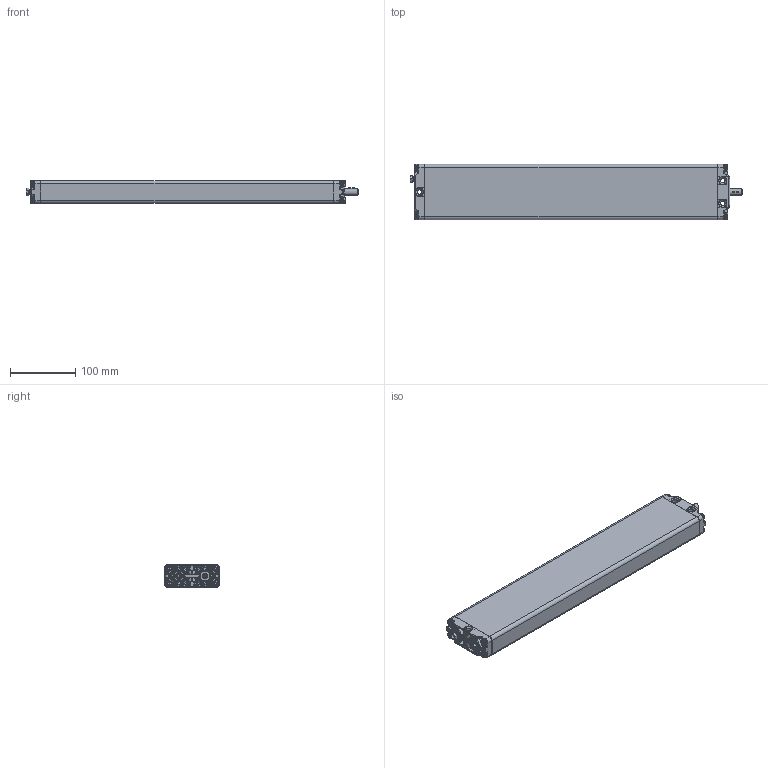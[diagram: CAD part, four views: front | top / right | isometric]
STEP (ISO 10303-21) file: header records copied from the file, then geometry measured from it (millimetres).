
FILE_DESCRIPTION(/* description */ ('Unknown'),/* implementation_level */ '2;1');
FILE_NAME(/* name */ '100.20023 Pumpe PA 1830 W',/* time_stamp */ '2016-08-09T15:47:59+02:00',/* author */ ('Unknown'),/* organization */ ('Unknown'),/* preprocessor_version */ 'ST-DEVELOPER v16.7',/* originating_system */ 'DEX',/* authorisation */ $);
FILE_SCHEMA (('AUTOMOTIVE_DESIGN {1 0 10303 214 3 1 1}'));
Products named in the file (13): 100.20023; 115.00033; 125.00045; 115.00008; 142.00021; 125.00021; 142.00013; 125.00143; 122.00040; 126.00002; 119.00023; 126.00001; 142.00057
Assembly tree (20 placements, depth 3):
  100.20023
    115.00033
      125.00045
      115.00008
      142.00021
      125.00021
    142.00013  x8
    125.00143
    122.00040
    126.00002
    119.00023
    126.00001
    142.00057
    125.00045
Bounding box: 509.47 x 85 x 35 mm (x, y, z)
Volume: 467791.8 mm3; surface area: 272124.9 mm2
Topology: 18 solids, 18 shells, 1880 faces, 4335 edges, 2452 vertices
Faces by surface type: plane 545, bspline 477, cylinder 433, cone 277, torus 103, sphere 45
Full cylindrical faces by diameter (mm): 3.5 x2, 4.1 x1, 4.2 x2, 5 x8, 6.917 x4, 8 x3, 9.8 x8, 10 x3, 10.4 x1, 14 x1, 14.4 x2, 17.3 x2, 17.9 x4, 18 x1, 19 x1
Entity records: 64745 total; most frequent: CARTESIAN_POINT 37610, ORIENTED_EDGE 5746, DIRECTION 4625, EDGE_CURVE 2873, AXIS2_PLACEMENT_3D 1895, VERTEX_POINT 1746, FACE_BOUND 1459, EDGE_LOOP 1458
